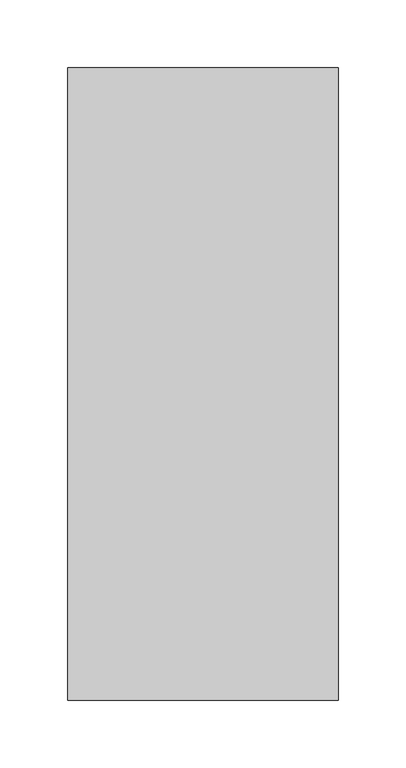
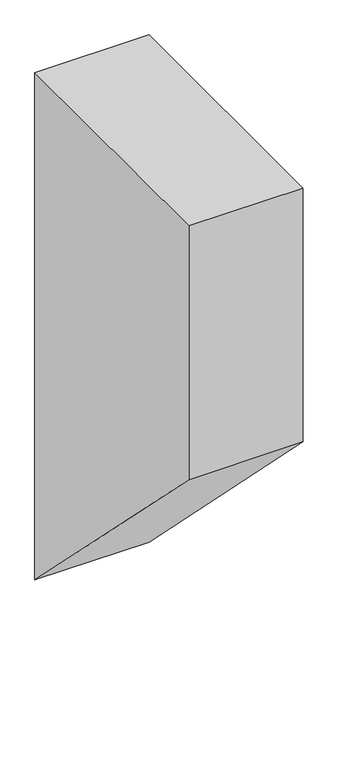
"""IFC4 building model written with IfcOpenShell, lengths in millimetres: beam geometry, appoggiTravi1 : appoggiTravi."""

from ifc_helpers import new_model, si_unit, frame, origin, place, context, project, spatial, polyline, outline, extrude, source, transform, mapped, element, save


def beam_40fa813a(model_context):
    return source(origin(), model_context, "Body", "SweptSolid", [
        extrude(outline(polyline([(29829.1284342, -640.0), (29829.1284342, -170.0), (30296.6410149, -170.0), (30296.6410149, -1109.0), (29829.1284342, -640.0)])), frame((-571.2723874, 0.0, 0.0), z_axis=(1.0, 0.0, 0.0), x_axis=(0.0, 1.0, 0.0)), (0.0, 0.0, 1.0), 200.0),
    ])


if __name__ == "__main__":
    model = new_model("IFC4")
    model_context = context("Model", 3, world=origin())
    ifc_project = project(units=[si_unit("LENGTHUNIT", "METRE", prefix="MILLI")], contexts=[model_context])
    site = spatial("IfcSite", under=ifc_project)
    building = spatial("IfcBuilding", under=site)
    placement = place(None, origin())
    beam_shape = beam_40fa813a(model_context)
    element("IfcBeam", 1, ObjectType="appoggiTravi1 : appoggiTravi", at=placement, inside=building, context=model_context, shape_type="MappedRepresentation", body=[
        mapped(beam_shape, transform((0.0, 0.0, 0.0), x_axis=(1.0, 0.0, 0.0), y_axis=(0.0, 1.0, 0.0), z_axis=(0.0, 0.0, 1.0))),
    ])
    save(model, "model.ifc")
